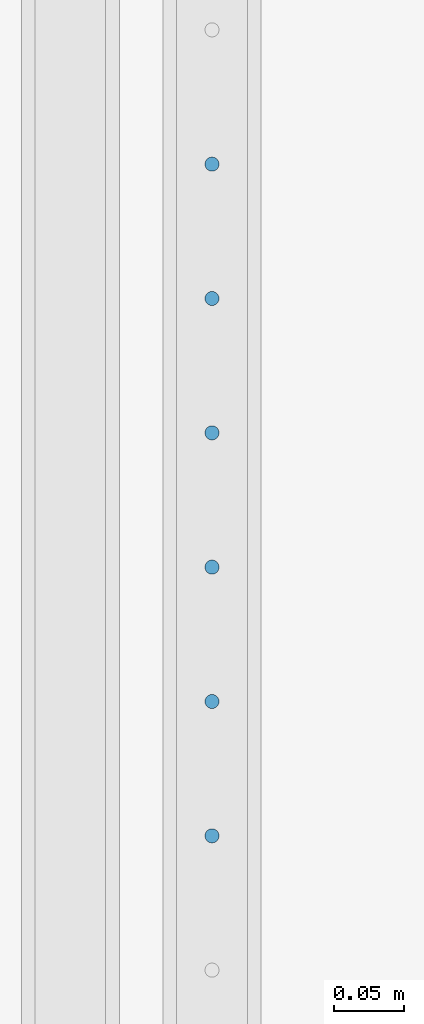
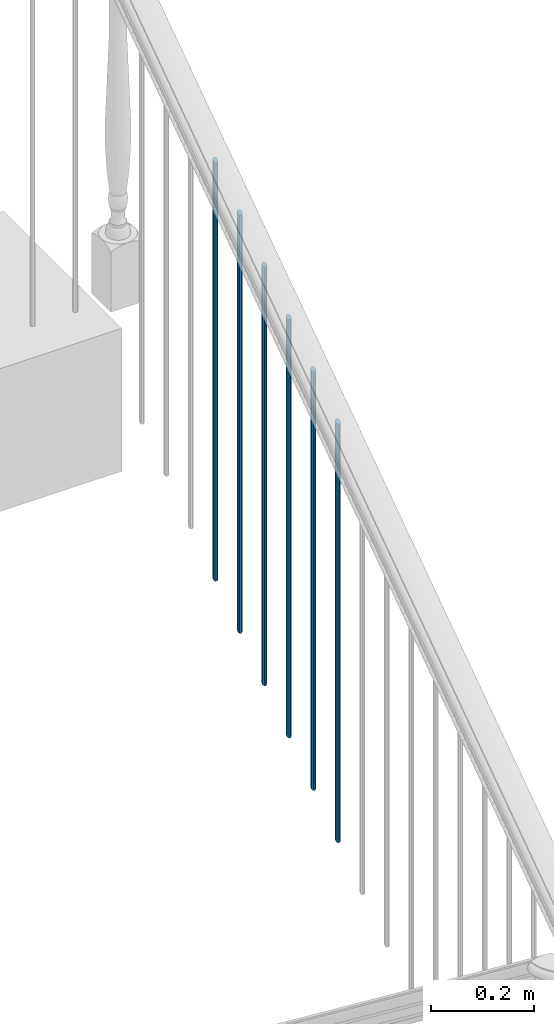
# One storey, part 13 of 77: 6 building element parts, 1 element without a shape of its own.
"""IFC2X3 building model written with IfcOpenShell, lengths in inches."""

from ifc_helpers import new_model, entity, si_unit, converted_unit, derived_unit, money_unit, direction, frame, origin_with_axes, place, context, subcontext, project, spatial, faceted_brep, material, type_object, element, aggregate, save


model = new_model("IFC2X3")

# Units and contexts
model_context = context("Model", 3, precision=0.000393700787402, world=origin_with_axes(), true_north=direction((0.0, 1.0)))
body_context = subcontext(model_context, "Body", "Model", "MODEL_VIEW")
ifc_project = project(units=[converted_unit("LENGTHUNIT", "INCH", entity("IfcPositiveLengthMeasure", 0.0254), si_unit("LENGTHUNIT", "METRE"), dimensions=[1, 0, 0, 0, 0, 0, 0]), converted_unit("AREAUNIT", "SQUARE_FOOT", entity("IfcPositiveLengthMeasure", 0.09290304), si_unit("AREAUNIT", "SQUARE_METRE"), dimensions=[2, 0, 0, 0, 0, 0, 0]), si_unit("PLANEANGLEUNIT", "RADIAN"), si_unit("SOLIDANGLEUNIT", "STERADIAN"), money_unit("USD"), converted_unit("TIMEUNIT", "Year", entity("IfcTimeMeasure", 31556926.0), si_unit("TIMEUNIT", "SECOND"), dimensions=[0, 0, 1, 0, 0, 0, 0]), si_unit("MASSUNIT", "GRAM", prefix="KILO"), si_unit("THERMODYNAMICTEMPERATUREUNIT", "DEGREE_CELSIUS"), si_unit("LUMINOUSINTENSITYUNIT", "LUMEN"), si_unit("ENERGYUNIT", "JOULE", prefix="MEGA"), derived_unit("THERMALCONDUCTANCEUNIT", [(si_unit("POWERUNIT", "WATT"), 1), (si_unit("LENGTHUNIT", "METRE"), -1), (si_unit("THERMODYNAMICTEMPERATUREUNIT", "KELVIN"), -1)]), derived_unit("SPECIFICHEATCAPACITYUNIT", [(si_unit("ENERGYUNIT", "JOULE"), 1), (si_unit("MASSUNIT", "GRAM", prefix="KILO"), -1), (si_unit("THERMODYNAMICTEMPERATUREUNIT", "KELVIN"), -1)]), derived_unit("MASSDENSITYUNIT", [(si_unit("MASSUNIT", "GRAM", prefix="KILO"), 1), (si_unit("VOLUMEUNIT", "CUBIC_METRE"), -1)])], contexts=[model_context])

# Site, building, storey
site_placement = place(None, origin_with_axes())
site = spatial("IfcSite", under=ifc_project, at=site_placement, Name="Site", CompositionType="ELEMENT")
building_placement = place(site_placement, origin_with_axes())
building = spatial("IfcBuilding", under=site, at=building_placement, Name="Building", CompositionType="ELEMENT")
storey_placement = place(building_placement, frame((0.0, 0.0, 127.952755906), z_axis=(0.0, 0.0, 1.0), x_axis=(1.0, 0.0, 0.0)))
storey = spatial("IfcBuildingStorey", under=building, at=storey_placement, Name="Second Floor", CompositionType="ELEMENT", Elevation=127.953)

# Railing, building element parts
railing_type = type_object("IfcRailingType", Name="Railing Type", PredefinedType="NOTDEFINED")
railing_placement = place(storey_placement, frame((682.459998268, 144.881628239, -56.1089279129), z_axis=(0.0, 0.0, 1.0), x_axis=(-1.0, 0.0, 0.0)))
railing = element("IfcRailing", 1, at=railing_placement, inside=storey, type_object=railing_type, Name="RAILING - 001", PredefinedType="NOTDEFINED")
ifc_material = material(Name="Steel - Structural")
building_element_part_1_placement = place(railing_placement, origin_with_axes())
building_element_part_1 = element("IfcBuildingElementPart", 2, at=building_element_part_1_placement, material=ifc_material, Name="Steel - Structural", context=body_context, shape_type="Brep", body=[
    faceted_brep([(-1.96850393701, 15.3583649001, 39.4259936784), (-1.93432122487, 15.3613554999, 39.4239111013), (-1.93432122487, 15.3613554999, 78.6365100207), (-1.96850393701, 15.3583649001, 78.6385925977), (-2.00268664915, 15.3613554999, 39.4239111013), (-2.03583073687, 15.3702364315, 39.4177266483), (-2.06692913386, 15.3847378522, 39.4076282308), (-2.09503693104, 15.4044191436, 39.393922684), (-2.11930008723, 15.4286822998, 39.3770264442), (-2.1389813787, 15.456790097, 39.3574528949), (-2.15348279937, 15.487888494, 39.3357967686), (-2.16236373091, 15.5210325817, 39.3127160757), (-2.16535433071, 15.5552152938, 39.2889121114), (-2.16236373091, 15.589398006, 39.2651081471), (-2.15348279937, 15.6225420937, 39.2420274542), (-2.1389813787, 15.6536404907, 39.2203713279), (-2.11930008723, 15.6817482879, 39.2007977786), (-2.09503693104, 15.7060114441, 39.1839015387), (-2.06692913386, 15.7256927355, 39.170195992), (-2.03583073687, 15.7401941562, 39.1600975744), (-2.00268664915, 15.7490750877, 39.1539131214), (-1.96850393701, 15.7520656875, 39.1518305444), (-1.93432122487, 15.7490750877, 39.1539131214), (-1.90117713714, 15.7401941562, 39.1600975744), (-1.87007874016, 15.7256927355, 39.170195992), (-1.84197094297, 15.7060114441, 39.1839015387), (-1.81770778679, 15.6817482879, 39.2007977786), (-1.79802649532, 15.6536404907, 39.2203713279), (-1.78352507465, 15.6225420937, 39.2420274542), (-1.77464414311, 15.589398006, 39.2651081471), (-1.77165354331, 15.5552152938, 39.2889121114), (-1.77464414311, 15.5210325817, 39.3127160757), (-1.78352507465, 15.487888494, 39.3357967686), (-1.79802649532, 15.456790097, 39.3574528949), (-1.81770778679, 15.4286822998, 39.3770264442), (-1.84197094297, 15.4044191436, 39.393922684), (-1.87007874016, 15.3847378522, 39.4076282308), (-1.90117713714, 15.3702364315, 39.4177266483), (-1.90117713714, 15.3702364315, 78.6303255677), (-1.87007874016, 15.3847378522, 78.6202271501), (-1.84197094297, 15.4044191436, 78.6065216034), (-1.81770778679, 15.4286822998, 78.5896253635), (-1.79802649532, 15.456790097, 78.5700518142), (-1.78352507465, 15.487888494, 78.5483956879), (-1.77464414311, 15.5210325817, 78.525314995), (-1.77165354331, 15.5552152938, 78.5015110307), (-1.77464414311, 15.589398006, 78.4777070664), (-1.78352507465, 15.6225420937, 78.4546263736), (-1.79802649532, 15.6536404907, 78.4329702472), (-1.81770778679, 15.6817482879, 78.413396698), (-1.84197094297, 15.7060114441, 78.3965004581), (-1.87007874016, 15.7256927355, 78.3827949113), (-1.90117713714, 15.7401941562, 78.3726964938), (-1.93432122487, 15.7490750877, 78.3665120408), (-1.96850393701, 15.7520656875, 78.3644294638), (-2.00268664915, 15.7490750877, 78.3665120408), (-2.03583073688, 15.7401941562, 78.3726964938), (-2.06692913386, 15.7256927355, 78.3827949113), (-2.09503693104, 15.7060114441, 78.3965004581), (-2.11930008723, 15.6817482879, 78.413396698), (-2.1389813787, 15.6536404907, 78.4329702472), (-2.15348279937, 15.6225420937, 78.4546263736), (-2.16236373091, 15.589398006, 78.4777070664), (-2.16535433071, 15.5552152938, 78.5015110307), (-2.16236373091, 15.5210325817, 78.525314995), (-2.15348279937, 15.487888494, 78.5483956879), (-2.1389813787, 15.456790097, 78.5700518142), (-2.11930008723, 15.4286822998, 78.5896253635), (-2.09503693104, 15.4044191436, 78.6065216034), (-2.06692913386, 15.3847378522, 78.6202271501), (-2.03583073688, 15.3702364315, 78.6303255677), (-2.00268664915, 15.3613554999, 78.6365100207)], [[[0, 1, 2, 3]], [[0, 4, 5, 6, 7, 8, 9, 10, 11, 12, 13, 14, 15, 16, 17, 18, 19, 20, 21, 22, 23, 24, 25, 26, 27, 28, 29, 30, 31, 32, 33, 34, 35, 36, 37, 1]], [[1, 37, 38, 2]], [[3, 2, 38, 39, 40, 41, 42, 43, 44, 45, 46, 47, 48, 49, 50, 51, 52, 53, 54, 55, 56, 57, 58, 59, 60, 61, 62, 63, 64, 65, 66, 67, 68, 69, 70, 71]], [[4, 0, 3, 71]], [[5, 4, 71, 70]], [[6, 5, 70, 69]], [[7, 6, 69, 68]], [[8, 7, 68, 67]], [[9, 8, 67, 66]], [[10, 9, 66, 65]], [[11, 10, 65, 64]], [[12, 11, 64, 63]], [[13, 12, 63, 62]], [[14, 13, 62, 61]], [[15, 14, 61, 60]], [[16, 15, 60, 59]], [[17, 16, 59, 58]], [[18, 17, 58, 57]], [[19, 18, 57, 56]], [[20, 19, 56, 55]], [[21, 20, 55, 54]], [[22, 21, 54, 53]], [[23, 22, 53, 52]], [[24, 23, 52, 51]], [[25, 24, 51, 50]], [[26, 25, 50, 49]], [[27, 26, 49, 48]], [[28, 27, 48, 47]], [[29, 28, 47, 46]], [[30, 29, 46, 45]], [[31, 30, 45, 44]], [[32, 31, 44, 43]], [[33, 32, 43, 42]], [[34, 33, 42, 41]], [[35, 34, 41, 40]], [[36, 35, 40, 39]], [[37, 36, 39, 38]]]),
])
building_element_part_2_placement = place(railing_placement, origin_with_axes())
building_element_part_2 = element("IfcBuildingElementPart", 3, at=building_element_part_2_placement, material=ifc_material, Name="Steel - Structural", context=body_context, shape_type="Brep", body=[
    faceted_brep([(-1.96850393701, 19.1196476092, 36.806732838), (-1.93432122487, 19.122638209, 36.804650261), (-1.93432122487, 19.122638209, 76.0172491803), (-1.96850393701, 19.1196476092, 76.0193317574), (-2.00268664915, 19.122638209, 36.804650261), (-2.03583073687, 19.1315191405, 36.798465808), (-2.06692913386, 19.1460205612, 36.7883673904), (-2.09503693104, 19.1657018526, 36.7746618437), (-2.11930008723, 19.1899650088, 36.7577656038), (-2.1389813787, 19.218072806, 36.7381920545), (-2.15348279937, 19.249171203, 36.7165359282), (-2.16236373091, 19.2823152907, 36.6934552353), (-2.16535433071, 19.3164980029, 36.669651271), (-2.16236373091, 19.350680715, 36.6458473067), (-2.15348279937, 19.3838248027, 36.6227666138), (-2.1389813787, 19.4149231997, 36.6011104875), (-2.11930008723, 19.4430309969, 36.5815369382), (-2.09503693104, 19.4672941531, 36.5646406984), (-2.06692913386, 19.4869754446, 36.5509351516), (-2.03583073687, 19.5014768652, 36.5408367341), (-2.00268664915, 19.5103577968, 36.534652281), (-1.96850393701, 19.5133483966, 36.532569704), (-1.93432122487, 19.5103577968, 36.534652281), (-1.90117713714, 19.5014768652, 36.5408367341), (-1.87007874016, 19.4869754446, 36.5509351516), (-1.84197094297, 19.4672941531, 36.5646406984), (-1.81770778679, 19.4430309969, 36.5815369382), (-1.79802649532, 19.4149231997, 36.6011104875), (-1.78352507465, 19.3838248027, 36.6227666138), (-1.77464414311, 19.350680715, 36.6458473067), (-1.77165354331, 19.3164980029, 36.669651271), (-1.77464414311, 19.2823152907, 36.6934552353), (-1.78352507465, 19.249171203, 36.7165359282), (-1.79802649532, 19.218072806, 36.7381920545), (-1.81770778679, 19.1899650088, 36.7577656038), (-1.84197094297, 19.1657018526, 36.7746618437), (-1.87007874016, 19.1460205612, 36.7883673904), (-1.90117713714, 19.1315191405, 36.798465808), (-1.90117713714, 19.1315191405, 76.0110647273), (-1.87007874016, 19.1460205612, 76.0009663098), (-1.84197094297, 19.1657018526, 75.987260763), (-1.81770778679, 19.1899650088, 75.9703645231), (-1.79802649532, 19.218072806, 75.9507909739), (-1.78352507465, 19.249171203, 75.9291348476), (-1.77464414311, 19.2823152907, 75.9060541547), (-1.77165354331, 19.3164980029, 75.8822501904), (-1.77464414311, 19.350680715, 75.8584462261), (-1.78352507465, 19.3838248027, 75.8353655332), (-1.79802649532, 19.4149231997, 75.8137094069), (-1.81770778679, 19.4430309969, 75.7941358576), (-1.84197094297, 19.4672941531, 75.7772396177), (-1.87007874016, 19.4869754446, 75.763534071), (-1.90117713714, 19.5014768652, 75.7534356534), (-1.93432122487, 19.5103577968, 75.7472512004), (-1.96850393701, 19.5133483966, 75.7451686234), (-2.00268664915, 19.5103577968, 75.7472512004), (-2.03583073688, 19.5014768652, 75.7534356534), (-2.06692913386, 19.4869754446, 75.763534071), (-2.09503693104, 19.4672941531, 75.7772396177), (-2.11930008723, 19.4430309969, 75.7941358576), (-2.1389813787, 19.4149231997, 75.8137094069), (-2.15348279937, 19.3838248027, 75.8353655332), (-2.16236373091, 19.350680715, 75.8584462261), (-2.16535433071, 19.3164980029, 75.8822501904), (-2.16236373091, 19.2823152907, 75.9060541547), (-2.15348279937, 19.249171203, 75.9291348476), (-2.1389813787, 19.218072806, 75.9507909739), (-2.11930008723, 19.1899650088, 75.9703645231), (-2.09503693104, 19.1657018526, 75.987260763), (-2.06692913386, 19.1460205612, 76.0009663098), (-2.03583073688, 19.1315191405, 76.0110647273), (-2.00268664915, 19.122638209, 76.0172491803)], [[[0, 1, 2, 3]], [[0, 4, 5, 6, 7, 8, 9, 10, 11, 12, 13, 14, 15, 16, 17, 18, 19, 20, 21, 22, 23, 24, 25, 26, 27, 28, 29, 30, 31, 32, 33, 34, 35, 36, 37, 1]], [[1, 37, 38, 2]], [[3, 2, 38, 39, 40, 41, 42, 43, 44, 45, 46, 47, 48, 49, 50, 51, 52, 53, 54, 55, 56, 57, 58, 59, 60, 61, 62, 63, 64, 65, 66, 67, 68, 69, 70, 71]], [[4, 0, 3, 71]], [[5, 4, 71, 70]], [[6, 5, 70, 69]], [[7, 6, 69, 68]], [[8, 7, 68, 67]], [[9, 8, 67, 66]], [[10, 9, 66, 65]], [[11, 10, 65, 64]], [[12, 11, 64, 63]], [[13, 12, 63, 62]], [[14, 13, 62, 61]], [[15, 14, 61, 60]], [[16, 15, 60, 59]], [[17, 16, 59, 58]], [[18, 17, 58, 57]], [[19, 18, 57, 56]], [[20, 19, 56, 55]], [[21, 20, 55, 54]], [[22, 21, 54, 53]], [[23, 22, 53, 52]], [[24, 23, 52, 51]], [[25, 24, 51, 50]], [[26, 25, 50, 49]], [[27, 26, 49, 48]], [[28, 27, 48, 47]], [[29, 28, 47, 46]], [[30, 29, 46, 45]], [[31, 30, 45, 44]], [[32, 31, 44, 43]], [[33, 32, 43, 42]], [[34, 33, 42, 41]], [[35, 34, 41, 40]], [[36, 35, 40, 39]], [[37, 36, 39, 38]]]),
])
building_element_part_3_placement = place(railing_placement, origin_with_axes())
building_element_part_3 = element("IfcBuildingElementPart", 4, at=building_element_part_3_placement, material=ifc_material, Name="Steel - Structural", context=body_context, shape_type="Brep", body=[
    faceted_brep([(-1.96850393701, 22.8809303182, 34.1874719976), (-1.93432122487, 22.883920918, 34.1853894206), (-1.93432122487, 22.883920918, 73.39798834), (-1.96850393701, 22.8809303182, 73.400070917), (-2.00268664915, 22.883920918, 34.1853894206), (-2.03583073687, 22.8928018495, 34.1792049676), (-2.06692913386, 22.9073032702, 34.16910655), (-2.09503693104, 22.9269845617, 34.1554010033), (-2.11930008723, 22.9512477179, 34.1385047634), (-2.1389813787, 22.979355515, 34.1189312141), (-2.15348279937, 23.010453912, 34.0972750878), (-2.16236373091, 23.0435979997, 34.0741943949), (-2.16535433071, 23.0777807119, 34.0503904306), (-2.16236373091, 23.111963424, 34.0265864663), (-2.15348279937, 23.1451075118, 34.0035057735), (-2.1389813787, 23.1762059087, 33.9818496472), (-2.11930008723, 23.2043137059, 33.9622760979), (-2.09503693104, 23.2285768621, 33.945379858), (-2.06692913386, 23.2482581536, 33.9316743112), (-2.03583073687, 23.2627595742, 33.9215758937), (-2.00268664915, 23.2716405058, 33.9153914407), (-1.96850393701, 23.2746311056, 33.9133088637), (-1.93432122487, 23.2716405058, 33.9153914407), (-1.90117713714, 23.2627595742, 33.9215758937), (-1.87007874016, 23.2482581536, 33.9316743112), (-1.84197094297, 23.2285768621, 33.945379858), (-1.81770778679, 23.2043137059, 33.9622760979), (-1.79802649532, 23.1762059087, 33.9818496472), (-1.78352507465, 23.1451075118, 34.0035057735), (-1.77464414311, 23.111963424, 34.0265864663), (-1.77165354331, 23.0777807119, 34.0503904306), (-1.77464414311, 23.0435979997, 34.0741943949), (-1.78352507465, 23.010453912, 34.0972750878), (-1.79802649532, 22.979355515, 34.1189312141), (-1.81770778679, 22.9512477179, 34.1385047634), (-1.84197094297, 22.9269845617, 34.1554010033), (-1.87007874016, 22.9073032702, 34.16910655), (-1.90117713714, 22.8928018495, 34.1792049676), (-1.90117713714, 22.8928018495, 73.3918038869), (-1.87007874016, 22.9073032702, 73.3817054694), (-1.84197094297, 22.9269845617, 73.3679999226), (-1.81770778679, 22.9512477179, 73.3511036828), (-1.79802649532, 22.979355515, 73.3315301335), (-1.78352507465, 23.010453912, 73.3098740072), (-1.77464414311, 23.0435979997, 73.2867933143), (-1.77165354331, 23.0777807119, 73.26298935), (-1.77464414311, 23.111963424, 73.2391853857), (-1.78352507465, 23.1451075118, 73.2161046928), (-1.79802649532, 23.1762059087, 73.1944485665), (-1.81770778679, 23.2043137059, 73.1748750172), (-1.84197094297, 23.2285768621, 73.1579787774), (-1.87007874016, 23.2482581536, 73.1442732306), (-1.90117713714, 23.2627595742, 73.1341748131), (-1.93432122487, 23.2716405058, 73.12799036), (-1.96850393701, 23.2746311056, 73.125907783), (-2.00268664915, 23.2716405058, 73.12799036), (-2.03583073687, 23.2627595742, 73.1341748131), (-2.06692913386, 23.2482581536, 73.1442732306), (-2.09503693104, 23.2285768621, 73.1579787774), (-2.11930008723, 23.2043137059, 73.1748750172), (-2.1389813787, 23.1762059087, 73.1944485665), (-2.15348279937, 23.1451075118, 73.2161046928), (-2.16236373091, 23.111963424, 73.2391853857), (-2.16535433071, 23.0777807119, 73.26298935), (-2.16236373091, 23.0435979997, 73.2867933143), (-2.15348279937, 23.010453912, 73.3098740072), (-2.1389813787, 22.979355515, 73.3315301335), (-2.11930008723, 22.9512477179, 73.3511036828), (-2.09503693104, 22.9269845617, 73.3679999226), (-2.06692913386, 22.9073032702, 73.3817054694), (-2.03583073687, 22.8928018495, 73.3918038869), (-2.00268664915, 22.883920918, 73.39798834)], [[[0, 1, 2, 3]], [[0, 4, 5, 6, 7, 8, 9, 10, 11, 12, 13, 14, 15, 16, 17, 18, 19, 20, 21, 22, 23, 24, 25, 26, 27, 28, 29, 30, 31, 32, 33, 34, 35, 36, 37, 1]], [[1, 37, 38, 2]], [[3, 2, 38, 39, 40, 41, 42, 43, 44, 45, 46, 47, 48, 49, 50, 51, 52, 53, 54, 55, 56, 57, 58, 59, 60, 61, 62, 63, 64, 65, 66, 67, 68, 69, 70, 71]], [[4, 0, 3, 71]], [[5, 4, 71, 70]], [[6, 5, 70, 69]], [[7, 6, 69, 68]], [[8, 7, 68, 67]], [[9, 8, 67, 66]], [[10, 9, 66, 65]], [[11, 10, 65, 64]], [[12, 11, 64, 63]], [[13, 12, 63, 62]], [[14, 13, 62, 61]], [[15, 14, 61, 60]], [[16, 15, 60, 59]], [[17, 16, 59, 58]], [[18, 17, 58, 57]], [[19, 18, 57, 56]], [[20, 19, 56, 55]], [[21, 20, 55, 54]], [[22, 21, 54, 53]], [[23, 22, 53, 52]], [[24, 23, 52, 51]], [[25, 24, 51, 50]], [[26, 25, 50, 49]], [[27, 26, 49, 48]], [[28, 27, 48, 47]], [[29, 28, 47, 46]], [[30, 29, 46, 45]], [[31, 30, 45, 44]], [[32, 31, 44, 43]], [[33, 32, 43, 42]], [[34, 33, 42, 41]], [[35, 34, 41, 40]], [[36, 35, 40, 39]], [[37, 36, 39, 38]]]),
])
building_element_part_4_placement = place(railing_placement, origin_with_axes())
building_element_part_4 = element("IfcBuildingElementPart", 5, at=building_element_part_4_placement, material=ifc_material, Name="Steel - Structural", context=body_context, shape_type="Brep", body=[
    faceted_brep([(-1.96850393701, 26.6422130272, 31.5682111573), (-1.93432122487, 26.645203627, 31.5661285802), (-1.93432122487, 26.645203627, 70.7787274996), (-1.96850393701, 26.6422130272, 70.7808100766), (-2.00268664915, 26.645203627, 31.5661285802), (-2.03583073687, 26.6540845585, 31.5599441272), (-2.06692913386, 26.6685859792, 31.5498457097), (-2.09503693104, 26.6882672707, 31.5361401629), (-2.11930008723, 26.7125304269, 31.519243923), (-2.1389813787, 26.7406382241, 31.4996703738), (-2.15348279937, 26.771736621, 31.4780142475), (-2.16236373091, 26.8048807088, 31.4549335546), (-2.16535433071, 26.8390634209, 31.4311295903), (-2.16236373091, 26.873246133, 31.407325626), (-2.15348279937, 26.9063902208, 31.3842449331), (-2.1389813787, 26.9374886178, 31.3625888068), (-2.11930008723, 26.9655964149, 31.3430152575), (-2.09503693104, 26.9898595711, 31.3261190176), (-2.06692913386, 27.0095408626, 31.3124134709), (-2.03583073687, 27.0240422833, 31.3023150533), (-2.00268664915, 27.0329232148, 31.2961306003), (-1.96850393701, 27.0359138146, 31.2940480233), (-1.93432122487, 27.0329232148, 31.2961306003), (-1.90117713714, 27.0240422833, 31.3023150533), (-1.87007874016, 27.0095408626, 31.3124134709), (-1.84197094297, 26.9898595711, 31.3261190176), (-1.81770778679, 26.9655964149, 31.3430152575), (-1.79802649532, 26.9374886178, 31.3625888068), (-1.78352507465, 26.9063902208, 31.3842449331), (-1.77464414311, 26.873246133, 31.407325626), (-1.77165354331, 26.8390634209, 31.4311295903), (-1.77464414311, 26.8048807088, 31.4549335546), (-1.78352507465, 26.771736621, 31.4780142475), (-1.79802649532, 26.7406382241, 31.4996703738), (-1.81770778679, 26.7125304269, 31.519243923), (-1.84197094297, 26.6882672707, 31.5361401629), (-1.87007874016, 26.6685859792, 31.5498457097), (-1.90117713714, 26.6540845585, 31.5599441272), (-1.90117713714, 26.6540845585, 70.7725430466), (-1.87007874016, 26.6685859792, 70.762444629), (-1.84197094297, 26.6882672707, 70.7487390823), (-1.81770778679, 26.7125304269, 70.7318428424), (-1.79802649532, 26.7406382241, 70.7122692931), (-1.78352507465, 26.771736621, 70.6906131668), (-1.77464414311, 26.8048807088, 70.6675324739), (-1.77165354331, 26.8390634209, 70.6437285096), (-1.77464414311, 26.873246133, 70.6199245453), (-1.78352507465, 26.9063902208, 70.5968438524), (-1.79802649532, 26.9374886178, 70.5751877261), (-1.81770778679, 26.9655964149, 70.5556141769), (-1.84197094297, 26.9898595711, 70.538717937), (-1.87007874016, 27.0095408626, 70.5250123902), (-1.90117713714, 27.0240422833, 70.5149139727), (-1.93432122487, 27.0329232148, 70.5087295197), (-1.96850393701, 27.0359138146, 70.5066469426), (-2.00268664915, 27.0329232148, 70.5087295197), (-2.03583073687, 27.0240422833, 70.5149139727), (-2.06692913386, 27.0095408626, 70.5250123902), (-2.09503693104, 26.9898595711, 70.538717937), (-2.11930008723, 26.9655964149, 70.5556141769), (-2.1389813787, 26.9374886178, 70.5751877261), (-2.15348279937, 26.9063902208, 70.5968438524), (-2.16236373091, 26.873246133, 70.6199245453), (-2.16535433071, 26.8390634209, 70.6437285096), (-2.16236373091, 26.8048807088, 70.6675324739), (-2.15348279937, 26.771736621, 70.6906131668), (-2.1389813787, 26.7406382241, 70.7122692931), (-2.11930008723, 26.7125304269, 70.7318428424), (-2.09503693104, 26.6882672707, 70.7487390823), (-2.06692913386, 26.6685859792, 70.762444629), (-2.03583073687, 26.6540845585, 70.7725430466), (-2.00268664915, 26.645203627, 70.7787274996)], [[[0, 1, 2, 3]], [[0, 4, 5, 6, 7, 8, 9, 10, 11, 12, 13, 14, 15, 16, 17, 18, 19, 20, 21, 22, 23, 24, 25, 26, 27, 28, 29, 30, 31, 32, 33, 34, 35, 36, 37, 1]], [[1, 37, 38, 2]], [[3, 2, 38, 39, 40, 41, 42, 43, 44, 45, 46, 47, 48, 49, 50, 51, 52, 53, 54, 55, 56, 57, 58, 59, 60, 61, 62, 63, 64, 65, 66, 67, 68, 69, 70, 71]], [[4, 0, 3, 71]], [[5, 4, 71, 70]], [[6, 5, 70, 69]], [[7, 6, 69, 68]], [[8, 7, 68, 67]], [[9, 8, 67, 66]], [[10, 9, 66, 65]], [[11, 10, 65, 64]], [[12, 11, 64, 63]], [[13, 12, 63, 62]], [[14, 13, 62, 61]], [[15, 14, 61, 60]], [[16, 15, 60, 59]], [[17, 16, 59, 58]], [[18, 17, 58, 57]], [[19, 18, 57, 56]], [[20, 19, 56, 55]], [[21, 20, 55, 54]], [[22, 21, 54, 53]], [[23, 22, 53, 52]], [[24, 23, 52, 51]], [[25, 24, 51, 50]], [[26, 25, 50, 49]], [[27, 26, 49, 48]], [[28, 27, 48, 47]], [[29, 28, 47, 46]], [[30, 29, 46, 45]], [[31, 30, 45, 44]], [[32, 31, 44, 43]], [[33, 32, 43, 42]], [[34, 33, 42, 41]], [[35, 34, 41, 40]], [[36, 35, 40, 39]], [[37, 36, 39, 38]]]),
])
building_element_part_5_placement = place(railing_placement, origin_with_axes())
building_element_part_5 = element("IfcBuildingElementPart", 6, at=building_element_part_5_placement, material=ifc_material, Name="Steel - Structural", context=body_context, shape_type="Brep", body=[
    faceted_brep([(-1.96850393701, 30.4034957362, 28.9489503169), (-1.93432122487, 30.406486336, 28.9468677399), (-1.93432122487, 30.406486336, 68.1594666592), (-1.96850393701, 30.4034957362, 68.1615492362), (-2.00268664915, 30.406486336, 28.9468677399), (-2.03583073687, 30.4153672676, 28.9406832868), (-2.06692913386, 30.4298686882, 28.9305848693), (-2.09503693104, 30.4495499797, 28.9168793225), (-2.11930008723, 30.4738131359, 28.8999830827), (-2.1389813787, 30.5019209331, 28.8804095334), (-2.15348279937, 30.5330193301, 28.8587534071), (-2.16236373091, 30.5661634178, 28.8356727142), (-2.16535433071, 30.6003461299, 28.8118687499), (-2.16236373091, 30.6345288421, 28.7880647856), (-2.15348279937, 30.6676729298, 28.7649840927), (-2.1389813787, 30.6987713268, 28.7433279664), (-2.11930008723, 30.726879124, 28.7237544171), (-2.09503693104, 30.7511422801, 28.7068581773), (-2.06692913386, 30.7708235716, 28.6931526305), (-2.03583073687, 30.7853249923, 28.683054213), (-2.00268664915, 30.7942059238, 28.6768697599), (-1.96850393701, 30.7971965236, 28.6747871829), (-1.93432122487, 30.7942059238, 28.6768697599), (-1.90117713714, 30.7853249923, 28.683054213), (-1.87007874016, 30.7708235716, 28.6931526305), (-1.84197094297, 30.7511422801, 28.7068581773), (-1.81770778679, 30.726879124, 28.7237544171), (-1.79802649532, 30.6987713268, 28.7433279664), (-1.78352507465, 30.6676729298, 28.7649840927), (-1.77464414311, 30.6345288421, 28.7880647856), (-1.77165354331, 30.6003461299, 28.8118687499), (-1.77464414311, 30.5661634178, 28.8356727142), (-1.78352507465, 30.5330193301, 28.8587534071), (-1.79802649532, 30.5019209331, 28.8804095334), (-1.81770778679, 30.4738131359, 28.8999830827), (-1.84197094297, 30.4495499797, 28.9168793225), (-1.87007874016, 30.4298686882, 28.9305848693), (-1.90117713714, 30.4153672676, 28.9406832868), (-1.90117713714, 30.4153672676, 68.1532822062), (-1.87007874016, 30.4298686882, 68.1431837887), (-1.84197094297, 30.4495499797, 68.1294782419), (-1.81770778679, 30.4738131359, 68.112582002), (-1.79802649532, 30.5019209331, 68.0930084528), (-1.78352507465, 30.5330193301, 68.0713523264), (-1.77464414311, 30.5661634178, 68.0482716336), (-1.77165354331, 30.6003461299, 68.0244676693), (-1.77464414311, 30.6345288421, 68.000663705), (-1.78352507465, 30.6676729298, 67.9775830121), (-1.79802649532, 30.6987713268, 67.9559268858), (-1.81770778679, 30.726879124, 67.9363533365), (-1.84197094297, 30.7511422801, 67.9194570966), (-1.87007874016, 30.7708235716, 67.9057515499), (-1.90117713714, 30.7853249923, 67.8956531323), (-1.93432122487, 30.7942059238, 67.8894686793), (-1.96850393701, 30.7971965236, 67.8873861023), (-2.00268664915, 30.7942059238, 67.8894686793), (-2.03583073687, 30.7853249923, 67.8956531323), (-2.06692913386, 30.7708235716, 67.9057515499), (-2.09503693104, 30.7511422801, 67.9194570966), (-2.11930008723, 30.726879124, 67.9363533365), (-2.1389813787, 30.6987713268, 67.9559268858), (-2.15348279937, 30.6676729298, 67.9775830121), (-2.16236373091, 30.6345288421, 68.000663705), (-2.16535433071, 30.6003461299, 68.0244676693), (-2.16236373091, 30.5661634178, 68.0482716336), (-2.15348279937, 30.5330193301, 68.0713523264), (-2.1389813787, 30.5019209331, 68.0930084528), (-2.11930008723, 30.4738131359, 68.112582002), (-2.09503693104, 30.4495499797, 68.1294782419), (-2.06692913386, 30.4298686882, 68.1431837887), (-2.03583073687, 30.4153672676, 68.1532822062), (-2.00268664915, 30.406486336, 68.1594666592)], [[[0, 1, 2, 3]], [[0, 4, 5, 6, 7, 8, 9, 10, 11, 12, 13, 14, 15, 16, 17, 18, 19, 20, 21, 22, 23, 24, 25, 26, 27, 28, 29, 30, 31, 32, 33, 34, 35, 36, 37, 1]], [[1, 37, 38, 2]], [[3, 2, 38, 39, 40, 41, 42, 43, 44, 45, 46, 47, 48, 49, 50, 51, 52, 53, 54, 55, 56, 57, 58, 59, 60, 61, 62, 63, 64, 65, 66, 67, 68, 69, 70, 71]], [[4, 0, 3, 71]], [[5, 4, 71, 70]], [[6, 5, 70, 69]], [[7, 6, 69, 68]], [[8, 7, 68, 67]], [[9, 8, 67, 66]], [[10, 9, 66, 65]], [[11, 10, 65, 64]], [[12, 11, 64, 63]], [[13, 12, 63, 62]], [[14, 13, 62, 61]], [[15, 14, 61, 60]], [[16, 15, 60, 59]], [[17, 16, 59, 58]], [[18, 17, 58, 57]], [[19, 18, 57, 56]], [[20, 19, 56, 55]], [[21, 20, 55, 54]], [[22, 21, 54, 53]], [[23, 22, 53, 52]], [[24, 23, 52, 51]], [[25, 24, 51, 50]], [[26, 25, 50, 49]], [[27, 26, 49, 48]], [[28, 27, 48, 47]], [[29, 28, 47, 46]], [[30, 29, 46, 45]], [[31, 30, 45, 44]], [[32, 31, 44, 43]], [[33, 32, 43, 42]], [[34, 33, 42, 41]], [[35, 34, 41, 40]], [[36, 35, 40, 39]], [[37, 36, 39, 38]]]),
])
building_element_part_6_placement = place(railing_placement, origin_with_axes())
building_element_part_6 = element("IfcBuildingElementPart", 7, at=building_element_part_6_placement, material=ifc_material, Name="Steel - Structural", context=body_context, shape_type="Brep", body=[
    faceted_brep([(-1.96850393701, 34.1647784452, 26.3296894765), (-1.93432122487, 34.167769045, 26.3276068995), (-1.93432122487, 34.167769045, 65.5402058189), (-1.96850393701, 34.1647784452, 65.5422883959), (-2.00268664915, 34.167769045, 26.3276068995), (-2.03583073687, 34.1766499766, 26.3214224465), (-2.06692913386, 34.1911513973, 26.3113240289), (-2.09503693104, 34.2108326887, 26.2976184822), (-2.11930008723, 34.2350958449, 26.2807222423), (-2.1389813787, 34.2632036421, 26.261148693), (-2.15348279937, 34.2943020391, 26.2394925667), (-2.16236373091, 34.3274461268, 26.2164118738), (-2.16535433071, 34.3616288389, 26.1926079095), (-2.16236373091, 34.3958115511, 26.1688039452), (-2.15348279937, 34.4289556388, 26.1457232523), (-2.1389813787, 34.4600540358, 26.124067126), (-2.11930008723, 34.488161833, 26.1044935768), (-2.09503693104, 34.5124249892, 26.0875973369), (-2.06692913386, 34.5321062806, 26.0738917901), (-2.03583073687, 34.5466077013, 26.0637933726), (-2.00268664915, 34.5554886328, 26.0576089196), (-1.96850393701, 34.5584792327, 26.0555263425), (-1.93432122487, 34.5554886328, 26.0576089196), (-1.90117713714, 34.5466077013, 26.0637933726), (-1.87007874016, 34.5321062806, 26.0738917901), (-1.84197094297, 34.5124249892, 26.0875973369), (-1.81770778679, 34.488161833, 26.1044935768), (-1.79802649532, 34.4600540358, 26.124067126), (-1.78352507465, 34.4289556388, 26.1457232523), (-1.77464414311, 34.3958115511, 26.1688039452), (-1.77165354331, 34.3616288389, 26.1926079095), (-1.77464414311, 34.3274461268, 26.2164118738), (-1.78352507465, 34.2943020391, 26.2394925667), (-1.79802649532, 34.2632036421, 26.261148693), (-1.81770778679, 34.2350958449, 26.2807222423), (-1.84197094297, 34.2108326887, 26.2976184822), (-1.87007874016, 34.1911513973, 26.3113240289), (-1.90117713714, 34.1766499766, 26.3214224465), (-1.90117713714, 34.1766499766, 65.5340213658), (-1.87007874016, 34.1911513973, 65.5239229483), (-1.84197094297, 34.2108326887, 65.5102174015), (-1.81770778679, 34.2350958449, 65.4933211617), (-1.79802649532, 34.2632036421, 65.4737476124), (-1.78352507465, 34.2943020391, 65.4520914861), (-1.77464414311, 34.3274461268, 65.4290107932), (-1.77165354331, 34.3616288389, 65.4052068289), (-1.77464414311, 34.3958115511, 65.3814028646), (-1.78352507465, 34.4289556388, 65.3583221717), (-1.79802649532, 34.4600540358, 65.3366660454), (-1.81770778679, 34.488161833, 65.3170924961), (-1.84197094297, 34.5124249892, 65.3001962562), (-1.87007874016, 34.5321062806, 65.2864907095), (-1.90117713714, 34.5466077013, 65.2763922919), (-1.93432122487, 34.5554886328, 65.2702078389), (-1.96850393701, 34.5584792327, 65.2681252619), (-2.00268664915, 34.5554886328, 65.2702078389), (-2.03583073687, 34.5466077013, 65.2763922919), (-2.06692913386, 34.5321062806, 65.2864907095), (-2.09503693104, 34.5124249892, 65.3001962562), (-2.11930008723, 34.488161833, 65.3170924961), (-2.1389813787, 34.4600540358, 65.3366660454), (-2.15348279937, 34.4289556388, 65.3583221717), (-2.16236373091, 34.3958115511, 65.3814028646), (-2.16535433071, 34.3616288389, 65.4052068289), (-2.16236373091, 34.3274461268, 65.4290107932), (-2.15348279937, 34.2943020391, 65.4520914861), (-2.1389813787, 34.2632036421, 65.4737476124), (-2.11930008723, 34.2350958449, 65.4933211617), (-2.09503693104, 34.2108326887, 65.5102174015), (-2.06692913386, 34.1911513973, 65.5239229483), (-2.03583073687, 34.1766499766, 65.5340213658), (-2.00268664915, 34.167769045, 65.5402058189)], [[[0, 1, 2, 3]], [[0, 4, 5, 6, 7, 8, 9, 10, 11, 12, 13, 14, 15, 16, 17, 18, 19, 20, 21, 22, 23, 24, 25, 26, 27, 28, 29, 30, 31, 32, 33, 34, 35, 36, 37, 1]], [[1, 37, 38, 2]], [[3, 2, 38, 39, 40, 41, 42, 43, 44, 45, 46, 47, 48, 49, 50, 51, 52, 53, 54, 55, 56, 57, 58, 59, 60, 61, 62, 63, 64, 65, 66, 67, 68, 69, 70, 71]], [[4, 0, 3, 71]], [[5, 4, 71, 70]], [[6, 5, 70, 69]], [[7, 6, 69, 68]], [[8, 7, 68, 67]], [[9, 8, 67, 66]], [[10, 9, 66, 65]], [[11, 10, 65, 64]], [[12, 11, 64, 63]], [[13, 12, 63, 62]], [[14, 13, 62, 61]], [[15, 14, 61, 60]], [[16, 15, 60, 59]], [[17, 16, 59, 58]], [[18, 17, 58, 57]], [[19, 18, 57, 56]], [[20, 19, 56, 55]], [[21, 20, 55, 54]], [[22, 21, 54, 53]], [[23, 22, 53, 52]], [[24, 23, 52, 51]], [[25, 24, 51, 50]], [[26, 25, 50, 49]], [[27, 26, 49, 48]], [[28, 27, 48, 47]], [[29, 28, 47, 46]], [[30, 29, 46, 45]], [[31, 30, 45, 44]], [[32, 31, 44, 43]], [[33, 32, 43, 42]], [[34, 33, 42, 41]], [[35, 34, 41, 40]], [[36, 35, 40, 39]], [[37, 36, 39, 38]]]),
])
aggregate(railing, [building_element_part_1, building_element_part_2, building_element_part_3, building_element_part_4, building_element_part_5, building_element_part_6])

save(model, "model.ifc")
